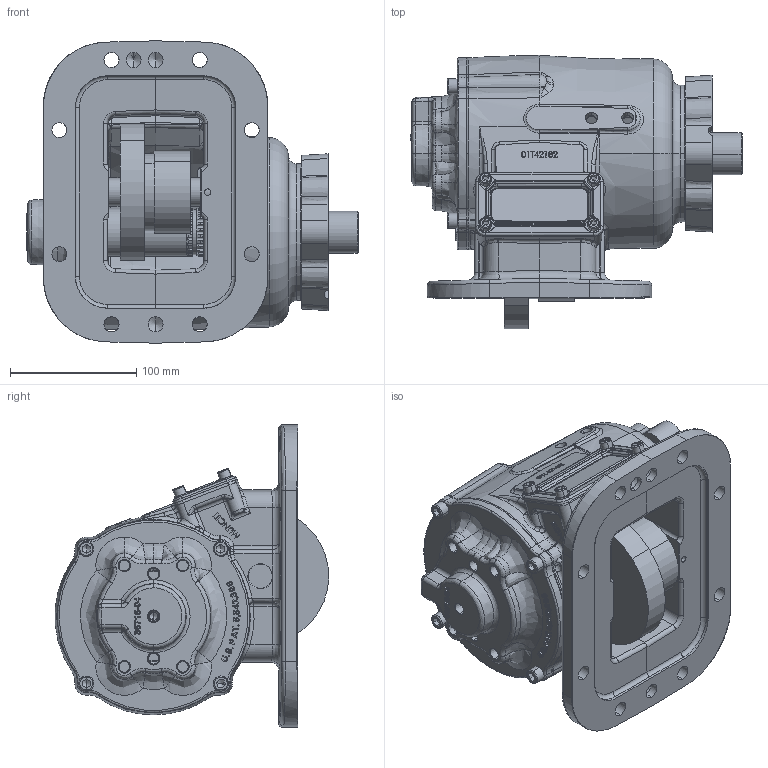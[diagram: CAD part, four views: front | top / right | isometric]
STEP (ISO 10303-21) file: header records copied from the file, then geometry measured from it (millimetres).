
FILE_DESCRIPTION (( 'STEP AP203' ), '1' );
FILE_NAME ('CS8S-XXXXX-X1GX.STEP', '2012-06-01T18:30:50', ( '' ), ( '' ), 'SwSTEP 2.0', 'SolidWorks 2012', '' );
FILE_SCHEMA (( 'CONFIG_CONTROL_DESIGN' ));
Products named in the file (4): CS8S-XXXXX-X1GX; CS6_8 OUTPUT SHAFTS_06T37088; 14T39137; CS8S-XXXXX-X1XX
Assembly tree (3 placements, depth 2):
  CS8S-XXXXX-X1GX
    CS8S-XXXXX-X1XX
    14T39137
    CS6_8 OUTPUT SHAFTS_06T37088
Bounding box: 263.11 x 216.73 x 239.61 mm (x, y, z)
Volume: 2006741.7 mm3; surface area: 461856.5 mm2
Topology: 5 solids, 17 shells, 2632 faces, 6730 edges, 4214 vertices
Faces by surface type: bspline 909, plane 783, cylinder 564, cone 266, torus 104, sphere 6
Entity records: 151458 total; most frequent: CARTESIAN_POINT 94562, ORIENTED_EDGE 13306, DIRECTION 9270, EDGE_CURVE 6653, VERTEX_POINT 4214, AXIS2_PLACEMENT_3D 3372, EDGE_LOOP 2879, FACE_OUTER_BOUND 2632
